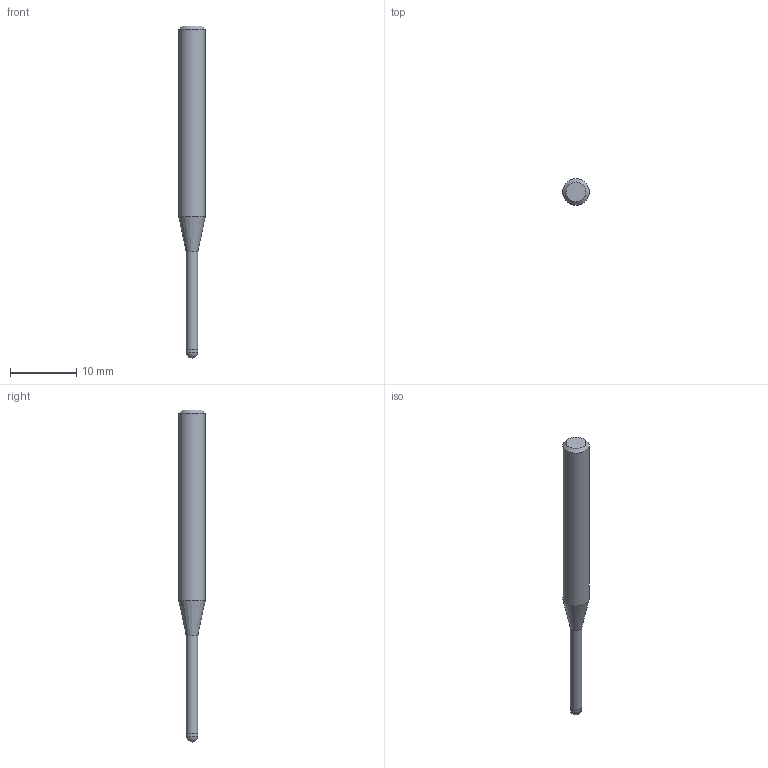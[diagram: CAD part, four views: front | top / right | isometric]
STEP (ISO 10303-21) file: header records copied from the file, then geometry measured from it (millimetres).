
FILE_DESCRIPTION((''),'2;1');
FILE_NAME('C:\Users\nsx150\AppData\Local\Temp\Mastercam 2021\3SYKECWX22\TEMP.step','2021-04-22T10:03:49',(''),(''),'STEP Write','Mastercam 2021 ... CNC Software, Inc.','');
FILE_SCHEMA(('AUTOMOTIVE_DESIGN'));
Length unit declared in the file: millimetre
Products named in the file (1): None
Bounding box: 4 x 4 x 50 mm (x, y, z)
Volume: 433.3 mm3; surface area: 511.3 mm2
Topology: 2 solids, 2 shells, 9 faces, 14 edges, 8 vertices
Faces by surface type: plane 3, cylinder 3, cone 2, sphere 1
Full cylindrical faces by diameter (mm): 1.75 x1, 1.8 x1, 4 x1
Entity records: 211 total; most frequent: DIRECTION 36, CARTESIAN_POINT 25, AXIS2_PLACEMENT_3D 18, ORIENTED_EDGE 14, EDGE_LOOP 14, STYLED_ITEM 12, ADVANCED_FACE 9, FACE_BOUND 8
